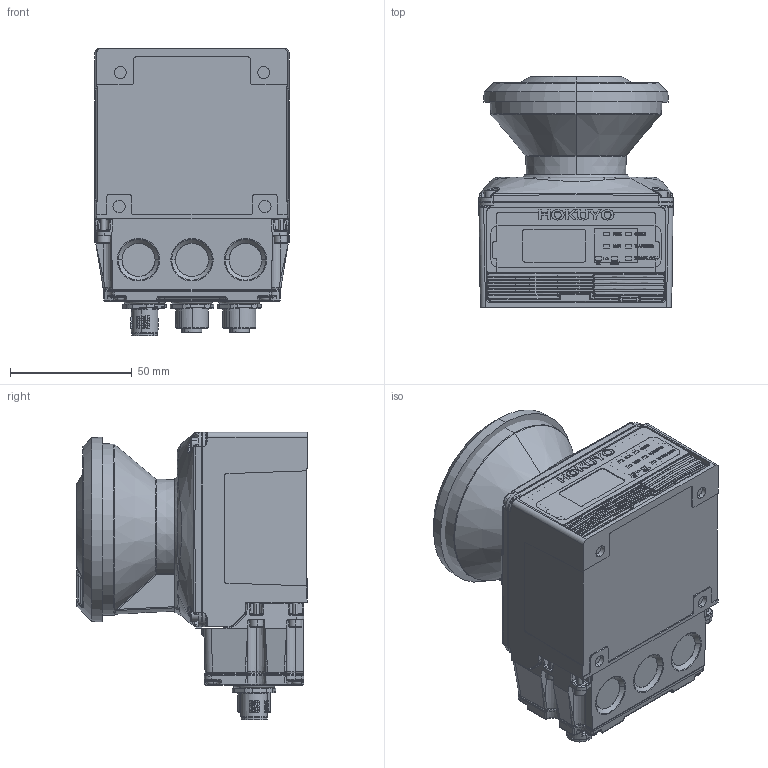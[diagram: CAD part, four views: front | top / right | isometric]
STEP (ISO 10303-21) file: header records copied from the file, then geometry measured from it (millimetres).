
FILE_DESCRIPTION (( 'STEP AP214' ), '1' );
FILE_NAME ('UAM-05LECA(喝咐攚柺).STEP', '2025-07-24T05:26:36', ( '' ), ( '' ), 'SwSTEP 2.0', 'SolidWorks 2022', '' );
FILE_SCHEMA (( 'AUTOMOTIVE_DESIGN' ));
Length unit declared in the file: millimetre
Products named in the file (15): USB____.STEP.STEP; ________sozai.STEP.STEP.STEP; ___w__.STEP.STEP; UAM-05LECA(ｺﾈｸﾀ背面); ___.STEP.STEP; _____w___o__.STEP.STEP; _____w__.STEP.STEP.STEP; ________SLDPRT.STEP.STEP; SWP-03104.STEP.STEP.STEP; SWP-01911.STEP.STEP.STEP; ____________f_____f____l_W_L.STEP.STEP.STEP; UAM-05LECA(ｺﾈｸﾀ背面).STEP; SWP-01909.STEP.STEP.STEP; SWP-03105.STEP.STEP.STEP; SWP-09400.STEP
Assembly tree (21 placements, depth 5):
  UAM-05LECA(ｺﾈｸﾀ背面)
    UAM-05LECA(ｺﾈｸﾀ背面).STEP
      _____w___o__.STEP.STEP
        _____w__.STEP.STEP.STEP
          SWP-01911.STEP.STEP.STEP  x2
          SWP-01909.STEP.STEP.STEP
          ____________f_____f____l_W_L.STEP.STEP.STEP
          SWP-03104.STEP.STEP.STEP  x4
          SWP-03105.STEP.STEP.STEP  x4
          ________sozai.STEP.STEP.STEP
      ___.STEP.STEP
      ___w__.STEP.STEP
      ________SLDPRT.STEP.STEP
      USB____.STEP.STEP
      SWP-09400.STEP
Bounding box: 80 x 95 x 118.19 mm (x, y, z)
Volume: 535815.4 mm3; surface area: 107357.1 mm2
Topology: 61 solids, 70 shells, 3547 faces, 8919 edges, 5568 vertices
Faces by surface type: plane 1474, cylinder 941, bspline 717, cone 177, torus 129, sphere 109
Entity records: 129957 total; most frequent: CARTESIAN_POINT 59506, ORIENTED_EDGE 15270, DIRECTION 12705, EDGE_CURVE 7635, VERTEX_POINT 4782, AXIS2_PLACEMENT_3D 4403, VECTOR 3899, LINE 3899
